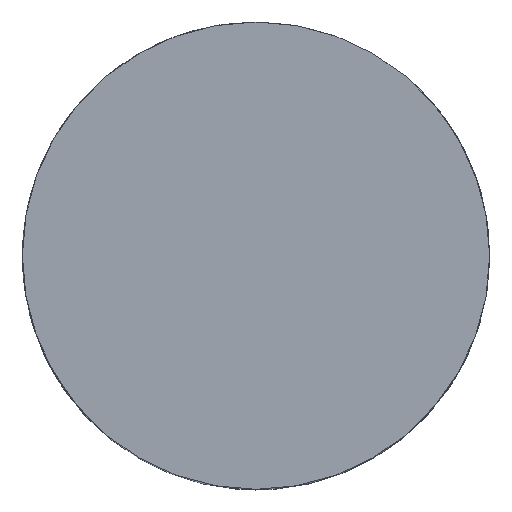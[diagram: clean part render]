
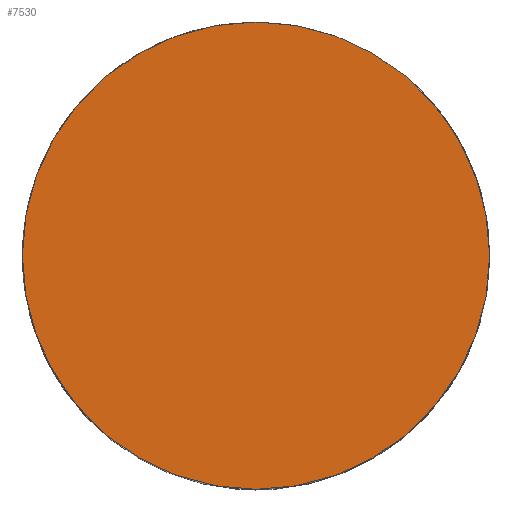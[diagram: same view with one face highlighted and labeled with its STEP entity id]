
A CAD part, top view. The second image highlights one B-rep face of the part: STEP entity #7530.
In plain terms, the highlighted planar face has unit normal (0, 0, 1).
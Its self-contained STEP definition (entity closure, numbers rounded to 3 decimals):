
#174=CARTESIAN_POINT('',(0.,0.,46.));
#175=DIRECTION('',(0.,0.,1.));
#176=DIRECTION('',(1.,0.,0.));
#177=AXIS2_PLACEMENT_3D('',#174,#175,#176);
#179=CARTESIAN_POINT('',(0.,0.,46.));
#180=DIRECTION('',(0.,0.,1.));
#181=DIRECTION('',(-1.,0.,0.));
#182=AXIS2_PLACEMENT_3D('',#179,#180,#181);
#7135=CARTESIAN_POINT('',(28.5,0.,46.));
#7136=CARTESIAN_POINT('',(-28.5,0.,46.));
#7137=VERTEX_POINT('',#7135);
#7138=VERTEX_POINT('',#7136);
#7521=CARTESIAN_POINT('',(0.,0.,46.));
#7522=DIRECTION('',(0.,0.,1.));
#7523=DIRECTION('',(0.707,0.707,0.));
#7524=AXIS2_PLACEMENT_3D('',#7521,#7522,#7523);
#7525=PLANE('',#7524);
#7526=ORIENTED_EDGE('',*,*,#7432,.F.);
#7527=ORIENTED_EDGE('',*,*,#7459,.F.);
#7528=EDGE_LOOP('',(#7526,#7527));
#7529=FACE_OUTER_BOUND('',#7528,.F.);
#7530=ADVANCED_FACE('',(#7529),#7525,.T.);
#178=CIRCLE('',#177,28.5);
#183=CIRCLE('',#182,28.5);
#7432=EDGE_CURVE('',#7137,#7138,#178,.T.);
#7459=EDGE_CURVE('',#7138,#7137,#183,.T.);
